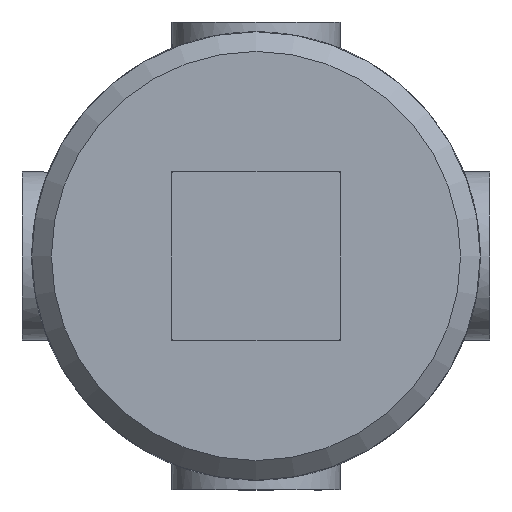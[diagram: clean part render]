
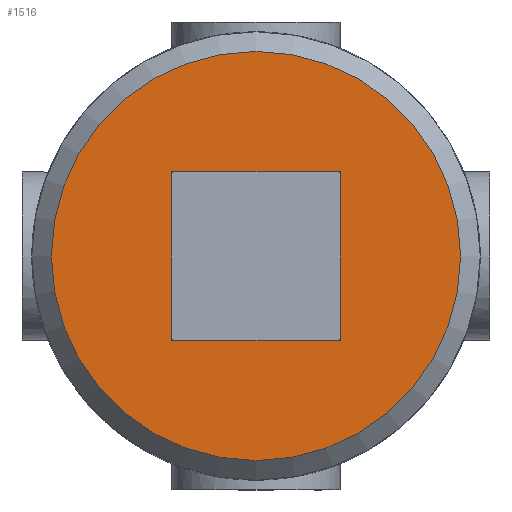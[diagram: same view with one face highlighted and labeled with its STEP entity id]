
A CAD part, front view. The second image highlights one B-rep face of the part: STEP entity #1516.
In plain terms, the highlighted planar face has unit normal (0, -1, 0).
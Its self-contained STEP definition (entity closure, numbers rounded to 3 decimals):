
#111=LINE('',#2896,#167);
#113=LINE('',#2904,#169);
#115=LINE('',#2912,#171);
#117=LINE('',#2918,#173);
#167=VECTOR('',#1988,6.);
#169=VECTOR('',#1992,6.);
#171=VECTOR('',#1996,6.);
#173=VECTOR('',#2000,6.);
#224=PLANE('',#1668);
#350=FACE_BOUND('',#564,.T.);
#431=FACE_OUTER_BOUND('',#563,.T.);
#563=EDGE_LOOP('',(#1322));
#564=EDGE_LOOP('',(#1323,#1324,#1325,#1326));
#647=CIRCLE('',#1666,7.3);
#770=VERTEX_POINT('',#2893);
#771=VERTEX_POINT('',#2895);
#773=VERTEX_POINT('',#2903);
#775=VERTEX_POINT('',#2911);
#777=VERTEX_POINT('',#2922);
#955=EDGE_CURVE('',#771,#770,#111,.T.);
#958=EDGE_CURVE('',#773,#771,#113,.T.);
#961=EDGE_CURVE('',#775,#773,#115,.T.);
#964=EDGE_CURVE('',#770,#775,#117,.T.);
#966=EDGE_CURVE('',#777,#777,#647,.T.);
#1322=ORIENTED_EDGE('',*,*,#966,.F.);
#1323=ORIENTED_EDGE('',*,*,#955,.T.);
#1324=ORIENTED_EDGE('',*,*,#964,.T.);
#1325=ORIENTED_EDGE('',*,*,#961,.T.);
#1326=ORIENTED_EDGE('',*,*,#958,.T.);
#1516=ADVANCED_FACE('',(#431,#350),#224,.F.);
#1666=AXIS2_PLACEMENT_3D('',#2923,#2005,#2006);
#1668=AXIS2_PLACEMENT_3D('',#3091,#2013,#2014);
#1988=DIRECTION('',(-1.,0.,0.));
#1992=DIRECTION('',(0.,0.,-1.));
#1996=DIRECTION('',(1.,0.,0.));
#2000=DIRECTION('',(0.,0.,1.));
#2005=DIRECTION('center_axis',(0.,1.,0.));
#2006=DIRECTION('ref_axis',(1.,0.,0.));
#2013=DIRECTION('center_axis',(0.,1.,0.));
#2014=DIRECTION('ref_axis',(0.,0.,1.));
#2893=CARTESIAN_POINT('',(-3.,-21.,-3.));
#2895=CARTESIAN_POINT('',(3.,-21.,-3.));
#2896=CARTESIAN_POINT('',(1.5,-21.,-3.));
#2903=CARTESIAN_POINT('',(3.,-21.,3.));
#2904=CARTESIAN_POINT('',(3.,-21.,1.5));
#2911=CARTESIAN_POINT('',(-3.,-21.,3.));
#2912=CARTESIAN_POINT('',(-1.5,-21.,3.));
#2918=CARTESIAN_POINT('',(-3.,-21.,-1.5));
#2922=CARTESIAN_POINT('',(-7.3,-21.,0.));
#2923=CARTESIAN_POINT('Origin',(0.,-21.,0.));
#3091=CARTESIAN_POINT('Origin',(0.,-21.,0.));
